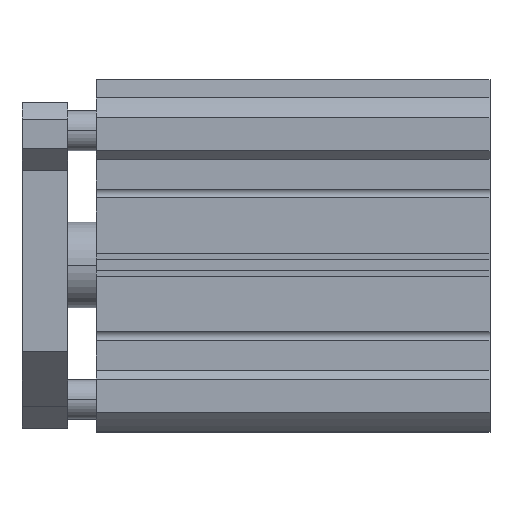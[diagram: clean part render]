
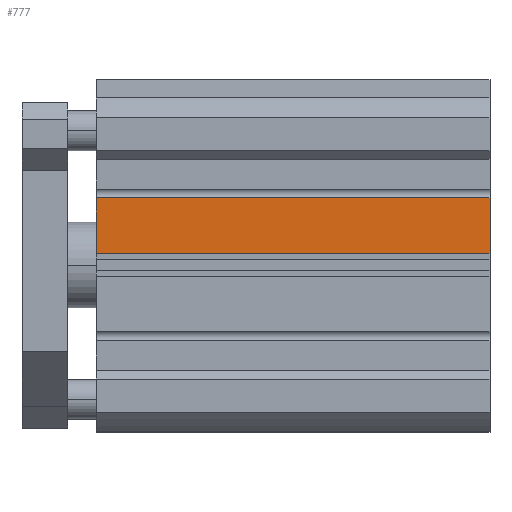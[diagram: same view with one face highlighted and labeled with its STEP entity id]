
A CAD part, top view. The second image highlights one B-rep face of the part: STEP entity #777.
In plain terms, the highlighted planar face has unit normal (0, 0, 1).
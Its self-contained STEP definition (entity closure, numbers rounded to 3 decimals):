
#191 = EDGE_CURVE ( 'NONE', #1704, #2294, #3902, .T. ) ;
#195 = ORIENTED_EDGE ( 'NONE', *, *, #191, .T. ) ;
#234 = EDGE_CURVE ( 'NONE', #2294, #2852, #2434, .T. ) ;
#537 = DIRECTION ( 'NONE',  ( 0., -1., 0. ) ) ;
#639 = EDGE_CURVE ( 'NONE', #5179, #2852, #2007, .T. ) ;
#777 = ADVANCED_FACE ( 'NONE', ( #1082 ), #4384, .F. ) ;
#818 = CARTESIAN_POINT ( 'NONE',  ( 0., 4., 55.5 ) ) ;
#1038 = CARTESIAN_POINT ( 'NONE',  ( 0., 23.5, 55.5 ) ) ;
#1082 = FACE_OUTER_BOUND ( 'NONE', #1743, .T. ) ;
#1512 = AXIS2_PLACEMENT_3D ( 'NONE', #4474, #4972, #3045 ) ;
#1690 = ORIENTED_EDGE ( 'NONE', *, *, #639, .F. ) ;
#1704 = VERTEX_POINT ( 'NONE', #4597 ) ;
#1743 = EDGE_LOOP ( 'NONE', ( #4373, #1690, #4097, #195 ) ) ;
#2007 = LINE ( 'NONE', #2429, #3966 ) ;
#2294 = VERTEX_POINT ( 'NONE', #4871 ) ;
#2359 = EDGE_CURVE ( 'NONE', #1704, #5179, #2920, .T. ) ;
#2429 = CARTESIAN_POINT ( 'NONE',  ( 138., 4., 55.5 ) ) ;
#2434 = LINE ( 'NONE', #1038, #3466 ) ;
#2452 = DIRECTION ( 'NONE',  ( -1., 0., 0. ) ) ;
#2783 = VECTOR ( 'NONE', #3437, 1000. ) ;
#2852 = VERTEX_POINT ( 'NONE', #818 ) ;
#2920 = LINE ( 'NONE', #4379, #2783 ) ;
#2932 = DIRECTION ( 'NONE',  ( -1., 0., 0. ) ) ;
#3045 = DIRECTION ( 'NONE',  ( 0., -1., 0. ) ) ;
#3437 = DIRECTION ( 'NONE',  ( 0., -1., 0. ) ) ;
#3466 = VECTOR ( 'NONE', #537, 1000. ) ;
#3892 = CARTESIAN_POINT ( 'NONE',  ( 138., 23.5, 55.5 ) ) ;
#3902 = LINE ( 'NONE', #3892, #4357 ) ;
#3966 = VECTOR ( 'NONE', #2452, 1000. ) ;
#4097 = ORIENTED_EDGE ( 'NONE', *, *, #2359, .F. ) ;
#4357 = VECTOR ( 'NONE', #2932, 1000. ) ;
#4373 = ORIENTED_EDGE ( 'NONE', *, *, #234, .T. ) ;
#4379 = CARTESIAN_POINT ( 'NONE',  ( 138., 23.5, 55.5 ) ) ;
#4384 = PLANE ( 'NONE',  #1512 ) ;
#4474 = CARTESIAN_POINT ( 'NONE',  ( 138., 23.5, 55.5 ) ) ;
#4597 = CARTESIAN_POINT ( 'NONE',  ( 138., 23.5, 55.5 ) ) ;
#4871 = CARTESIAN_POINT ( 'NONE',  ( 0., 23.5, 55.5 ) ) ;
#4972 = DIRECTION ( 'NONE',  ( 0., 0., -1. ) ) ;
#5179 = VERTEX_POINT ( 'NONE', #5572 ) ;
#5572 = CARTESIAN_POINT ( 'NONE',  ( 138., 4., 55.5 ) ) ;
